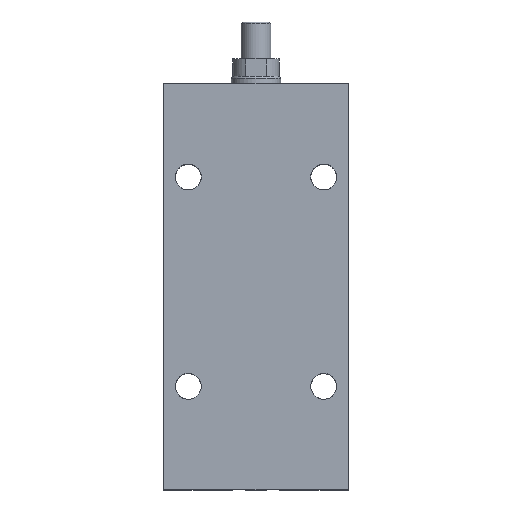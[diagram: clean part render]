
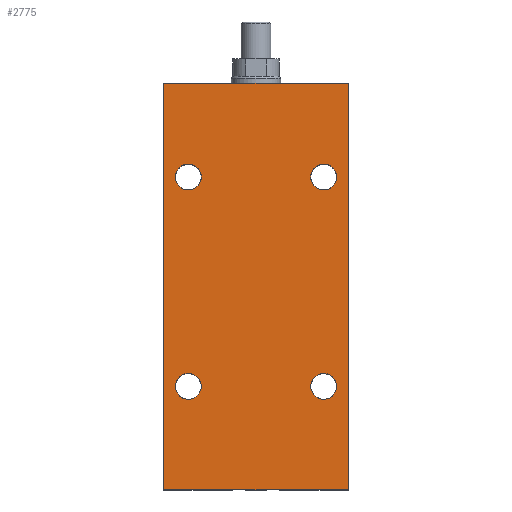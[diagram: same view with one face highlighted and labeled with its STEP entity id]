
A CAD part, top view. The second image highlights one B-rep face of the part: STEP entity #2775.
In plain terms, the highlighted planar face has unit normal (0, 0, 1).
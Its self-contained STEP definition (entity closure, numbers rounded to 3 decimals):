
#19 = CARTESIAN_POINT ( 'NONE',  ( -37.5, 165., 27.5 ) ) ;
#55 = CIRCLE ( 'NONE', #3944, 5.25 ) ;
#94 = DIRECTION ( 'NONE',  ( 1., 0., 0. ) ) ;
#97 = AXIS2_PLACEMENT_3D ( 'NONE', #4649, #2393, #178 ) ;
#106 = VERTEX_POINT ( 'NONE', #1663 ) ;
#111 = EDGE_LOOP ( 'NONE', ( #2477, #1403 ) ) ;
#116 = CIRCLE ( 'NONE', #499, 5.25 ) ;
#175 = EDGE_CURVE ( 'NONE', #1085, #3809, #4356, .T. ) ;
#178 = DIRECTION ( 'NONE',  ( 1., 0., 0. ) ) ;
#230 = VERTEX_POINT ( 'NONE', #1907 ) ;
#242 = PLANE ( 'NONE',  #1827 ) ;
#370 = CARTESIAN_POINT ( 'NONE',  ( -32.75, 127., 27.5 ) ) ;
#416 = EDGE_LOOP ( 'NONE', ( #1881, #4739 ) ) ;
#419 = VERTEX_POINT ( 'NONE', #19 ) ;
#476 = CIRCLE ( 'NONE', #97, 5.25 ) ;
#499 = AXIS2_PLACEMENT_3D ( 'NONE', #1262, #3922, #1637 ) ;
#587 = DIRECTION ( 'NONE',  ( 0., 0., 1. ) ) ;
#599 = CARTESIAN_POINT ( 'NONE',  ( 37.5, 165., 27.5 ) ) ;
#614 = DIRECTION ( 'NONE',  ( 0., 0., -1. ) ) ;
#640 = FACE_BOUND ( 'NONE', #416, .T. ) ;
#663 = VECTOR ( 'NONE', #1553, 1000. ) ;
#787 = VERTEX_POINT ( 'NONE', #4698 ) ;
#826 = EDGE_CURVE ( 'NONE', #106, #3809, #3013, .T. ) ;
#845 = DIRECTION ( 'NONE',  ( 0., 0., 1. ) ) ;
#867 = FACE_BOUND ( 'NONE', #3778, .T. ) ;
#875 = ORIENTED_EDGE ( 'NONE', *, *, #826, .T. ) ;
#915 = EDGE_CURVE ( 'NONE', #419, #1085, #2643, .T. ) ;
#960 = CARTESIAN_POINT ( 'NONE',  ( -37.5, 65., 27.5 ) ) ;
#1004 = VECTOR ( 'NONE', #4348, 1000. ) ;
#1085 = VERTEX_POINT ( 'NONE', #599 ) ;
#1089 = CIRCLE ( 'NONE', #3601, 5.25 ) ;
#1103 = CARTESIAN_POINT ( 'NONE',  ( 27.5, 127., 27.5 ) ) ;
#1180 = ORIENTED_EDGE ( 'NONE', *, *, #915, .F. ) ;
#1218 = ORIENTED_EDGE ( 'NONE', *, *, #175, .F. ) ;
#1262 = CARTESIAN_POINT ( 'NONE',  ( 27.5, 42., 27.5 ) ) ;
#1263 = CARTESIAN_POINT ( 'NONE',  ( 37.5, 65., 27.5 ) ) ;
#1334 = DIRECTION ( 'NONE',  ( 0., -1., 0. ) ) ;
#1357 = VECTOR ( 'NONE', #1497, 1000. ) ;
#1380 = LINE ( 'NONE', #960, #4266 ) ;
#1403 = ORIENTED_EDGE ( 'NONE', *, *, #4778, .F. ) ;
#1497 = DIRECTION ( 'NONE',  ( 0., -1., 0. ) ) ;
#1500 = DIRECTION ( 'NONE',  ( 0., 0., 1. ) ) ;
#1553 = DIRECTION ( 'NONE',  ( 1., 0., 0. ) ) ;
#1613 = CARTESIAN_POINT ( 'NONE',  ( -37.5, 165., 27.5 ) ) ;
#1617 = FACE_BOUND ( 'NONE', #2034, .T. ) ;
#1637 = DIRECTION ( 'NONE',  ( 1., 0., 0. ) ) ;
#1663 = CARTESIAN_POINT ( 'NONE',  ( -37.5, 0., 27.5 ) ) ;
#1702 = AXIS2_PLACEMENT_3D ( 'NONE', #4368, #2109, #4735 ) ;
#1827 = AXIS2_PLACEMENT_3D ( 'NONE', #4347, #614, #3253 ) ;
#1881 = ORIENTED_EDGE ( 'NONE', *, *, #2961, .F. ) ;
#1888 = ORIENTED_EDGE ( 'NONE', *, *, #2227, .F. ) ;
#1907 = CARTESIAN_POINT ( 'NONE',  ( -22.25, 127., 27.5 ) ) ;
#1982 = AXIS2_PLACEMENT_3D ( 'NONE', #3780, #1500, #4150 ) ;
#2034 = EDGE_LOOP ( 'NONE', ( #4506, #2784 ) ) ;
#2085 = VERTEX_POINT ( 'NONE', #2326 ) ;
#2109 = DIRECTION ( 'NONE',  ( 0., 0., 1. ) ) ;
#2224 = ORIENTED_EDGE ( 'NONE', *, *, #3886, .T. ) ;
#2227 = EDGE_CURVE ( 'NONE', #3142, #4487, #3890, .T. ) ;
#2313 = DIRECTION ( 'NONE',  ( 0., 0., 1. ) ) ;
#2326 = CARTESIAN_POINT ( 'NONE',  ( 22.25, 42., 27.5 ) ) ;
#2338 = DIRECTION ( 'NONE',  ( 0., 0., 1. ) ) ;
#2362 = AXIS2_PLACEMENT_3D ( 'NONE', #4561, #2313, #94 ) ;
#2393 = DIRECTION ( 'NONE',  ( 0., 0., 1. ) ) ;
#2470 = CIRCLE ( 'NONE', #2362, 5.25 ) ;
#2477 = ORIENTED_EDGE ( 'NONE', *, *, #3545, .F. ) ;
#2525 = DIRECTION ( 'NONE',  ( 1., 0., 0. ) ) ;
#2604 = EDGE_CURVE ( 'NONE', #4487, #3142, #476, .T. ) ;
#2620 = FACE_BOUND ( 'NONE', #111, .T. ) ;
#2643 = LINE ( 'NONE', #1613, #663 ) ;
#2775 = ADVANCED_FACE ( 'NONE', ( #2620, #1617, #640, #867, #3659 ), #242, .F. ) ;
#2784 = ORIENTED_EDGE ( 'NONE', *, *, #4432, .F. ) ;
#2789 = ORIENTED_EDGE ( 'NONE', *, *, #2604, .F. ) ;
#2822 = CARTESIAN_POINT ( 'NONE',  ( -27.5, 42., 27.5 ) ) ;
#2949 = VERTEX_POINT ( 'NONE', #370 ) ;
#2961 = EDGE_CURVE ( 'NONE', #787, #2085, #4786, .T. ) ;
#3013 = LINE ( 'NONE', #4018, #1004 ) ;
#3109 = CARTESIAN_POINT ( 'NONE',  ( -27.5, 127., 27.5 ) ) ;
#3142 = VERTEX_POINT ( 'NONE', #4582 ) ;
#3218 = DIRECTION ( 'NONE',  ( 1., 0., 0. ) ) ;
#3223 = EDGE_CURVE ( 'NONE', #2085, #787, #116, .T. ) ;
#3253 = DIRECTION ( 'NONE',  ( -1., 0., 0. ) ) ;
#3398 = AXIS2_PLACEMENT_3D ( 'NONE', #2822, #587, #3218 ) ;
#3416 = EDGE_LOOP ( 'NONE', ( #875, #1218, #1180, #2224 ) ) ;
#3498 = DIRECTION ( 'NONE',  ( 1., 0., 0. ) ) ;
#3545 = EDGE_CURVE ( 'NONE', #4602, #4256, #55, .T. ) ;
#3601 = AXIS2_PLACEMENT_3D ( 'NONE', #3109, #845, #3498 ) ;
#3659 = FACE_OUTER_BOUND ( 'NONE', #3416, .T. ) ;
#3708 = EDGE_CURVE ( 'NONE', #230, #2949, #1089, .T. ) ;
#3778 = EDGE_LOOP ( 'NONE', ( #2789, #1888 ) ) ;
#3780 = CARTESIAN_POINT ( 'NONE',  ( 27.5, 42., 27.5 ) ) ;
#3807 = CIRCLE ( 'NONE', #1702, 5.25 ) ;
#3809 = VERTEX_POINT ( 'NONE', #4642 ) ;
#3886 = EDGE_CURVE ( 'NONE', #419, #106, #1380, .T. ) ;
#3890 = CIRCLE ( 'NONE', #3398, 5.25 ) ;
#3922 = DIRECTION ( 'NONE',  ( 0., 0., 1. ) ) ;
#3944 = AXIS2_PLACEMENT_3D ( 'NONE', #1103, #2338, #2525 ) ;
#4018 = CARTESIAN_POINT ( 'NONE',  ( -37.5, 0., 27.5 ) ) ;
#4150 = DIRECTION ( 'NONE',  ( 1., 0., 0. ) ) ;
#4256 = VERTEX_POINT ( 'NONE', #4575 ) ;
#4266 = VECTOR ( 'NONE', #1334, 1000. ) ;
#4347 = CARTESIAN_POINT ( 'NONE',  ( -37.5, 65., 27.5 ) ) ;
#4348 = DIRECTION ( 'NONE',  ( 1., 0., 0. ) ) ;
#4356 = LINE ( 'NONE', #1263, #1357 ) ;
#4368 = CARTESIAN_POINT ( 'NONE',  ( -27.5, 127., 27.5 ) ) ;
#4432 = EDGE_CURVE ( 'NONE', #2949, #230, #3807, .T. ) ;
#4448 = CARTESIAN_POINT ( 'NONE',  ( 32.75, 127., 27.5 ) ) ;
#4487 = VERTEX_POINT ( 'NONE', #4765 ) ;
#4506 = ORIENTED_EDGE ( 'NONE', *, *, #3708, .F. ) ;
#4561 = CARTESIAN_POINT ( 'NONE',  ( 27.5, 127., 27.5 ) ) ;
#4575 = CARTESIAN_POINT ( 'NONE',  ( 22.25, 127., 27.5 ) ) ;
#4582 = CARTESIAN_POINT ( 'NONE',  ( -32.75, 42., 27.5 ) ) ;
#4602 = VERTEX_POINT ( 'NONE', #4448 ) ;
#4642 = CARTESIAN_POINT ( 'NONE',  ( 37.5, 0., 27.5 ) ) ;
#4649 = CARTESIAN_POINT ( 'NONE',  ( -27.5, 42., 27.5 ) ) ;
#4698 = CARTESIAN_POINT ( 'NONE',  ( 32.75, 42., 27.5 ) ) ;
#4735 = DIRECTION ( 'NONE',  ( 1., 0., 0. ) ) ;
#4739 = ORIENTED_EDGE ( 'NONE', *, *, #3223, .F. ) ;
#4765 = CARTESIAN_POINT ( 'NONE',  ( -22.25, 42., 27.5 ) ) ;
#4778 = EDGE_CURVE ( 'NONE', #4256, #4602, #2470, .T. ) ;
#4786 = CIRCLE ( 'NONE', #1982, 5.25 ) ;
